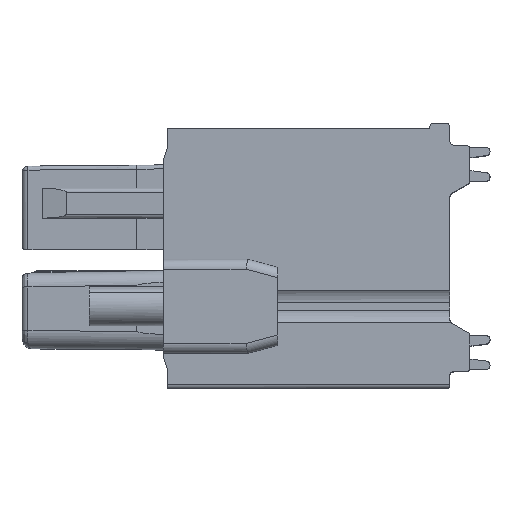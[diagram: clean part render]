
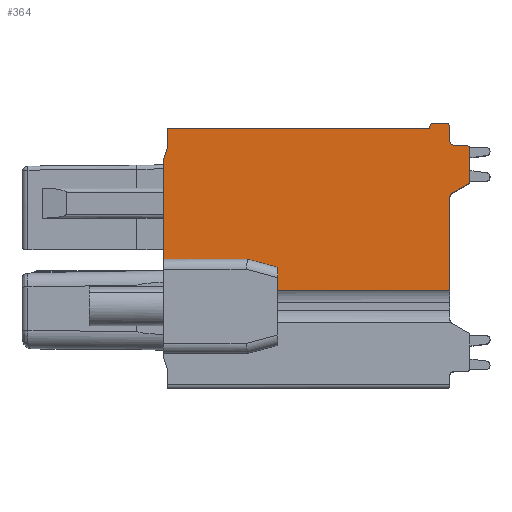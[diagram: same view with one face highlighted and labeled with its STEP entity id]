
A CAD part, top view. The second image highlights one B-rep face of the part: STEP entity #364.
In plain terms, the highlighted planar face has unit normal (0, 0, 1).
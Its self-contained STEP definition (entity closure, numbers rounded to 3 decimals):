
#364=ADVANCED_FACE('',(#3954),#3953,.F.);
#3953=PLANE('',#10093);
#3954=FACE_OUTER_BOUND('',#10094,.T.);
#10090=CARTESIAN_POINT('',(18.342,60.223,-4.975));
#10091=DIRECTION('',(0.,0.,-1.));
#10092=DIRECTION('',(1.,0.,0.));
#10093=AXIS2_PLACEMENT_3D('',#10090,#10091,#10092);
#10094=EDGE_LOOP('',(#14377,#14378,#14379,#14380,#14381,#14382,#14383,#14384,#14385,#14386,#14387,#14388,#14389,#14390,#14391,#14392,#14393,#14394,#14395,#14396,#14397,#14398));
#14377=ORIENTED_EDGE('',*,*,#17220,.T.);
#14378=ORIENTED_EDGE('',*,*,#17390,.T.);
#14379=ORIENTED_EDGE('',*,*,#17391,.F.);
#14380=ORIENTED_EDGE('',*,*,#17392,.T.);
#14381=ORIENTED_EDGE('',*,*,#17374,.F.);
#14382=ORIENTED_EDGE('',*,*,#17370,.F.);
#14383=ORIENTED_EDGE('',*,*,#17393,.F.);
#14384=ORIENTED_EDGE('',*,*,#17394,.F.);
#14385=ORIENTED_EDGE('',*,*,#17395,.F.);
#14386=ORIENTED_EDGE('',*,*,#17396,.T.);
#14387=ORIENTED_EDGE('',*,*,#17397,.T.);
#14388=ORIENTED_EDGE('',*,*,#17398,.T.);
#14389=ORIENTED_EDGE('',*,*,#17399,.F.);
#14390=ORIENTED_EDGE('',*,*,#17400,.T.);
#14391=ORIENTED_EDGE('',*,*,#17309,.T.);
#14392=ORIENTED_EDGE('',*,*,#17401,.F.);
#14393=ORIENTED_EDGE('',*,*,#17402,.F.);
#14394=ORIENTED_EDGE('',*,*,#17268,.T.);
#14395=ORIENTED_EDGE('',*,*,#17291,.T.);
#14396=ORIENTED_EDGE('',*,*,#17287,.T.);
#14397=ORIENTED_EDGE('',*,*,#17284,.T.);
#14398=ORIENTED_EDGE('',*,*,#17403,.F.);
#17220=EDGE_CURVE('',#24002,#23995,#24003,.T.);
#17268=EDGE_CURVE('',#24322,#24315,#24323,.T.);
#17284=EDGE_CURVE('',#24428,#24421,#24429,.T.);
#17287=EDGE_CURVE('',#24447,#24428,#24448,.T.);
#17291=EDGE_CURVE('',#24315,#24447,#24472,.T.);
#17309=EDGE_CURVE('',#24593,#24586,#24594,.T.);
#17370=EDGE_CURVE('',#24990,#24991,#24992,.T.);
#17374=EDGE_CURVE('',#24991,#25018,#25019,.T.);
#17390=EDGE_CURVE('',#23995,#25126,#25127,.T.);
#17391=EDGE_CURVE('',#25133,#25126,#25134,.T.);
#17392=EDGE_CURVE('',#25133,#25018,#25140,.T.);
#17393=EDGE_CURVE('',#25146,#24990,#25147,.T.);
#17394=EDGE_CURVE('',#25153,#25146,#25154,.T.);
#17395=EDGE_CURVE('',#25160,#25153,#25161,.T.);
#17396=EDGE_CURVE('',#25160,#25167,#25168,.T.);
#17397=EDGE_CURVE('',#25167,#25174,#25175,.T.);
#17398=EDGE_CURVE('',#25174,#25181,#25182,.T.);
#17399=EDGE_CURVE('',#25188,#25181,#25189,.T.);
#17400=EDGE_CURVE('',#25188,#24593,#25195,.T.);
#17401=EDGE_CURVE('',#25201,#24586,#25202,.T.);
#17402=EDGE_CURVE('',#24322,#25201,#25208,.T.);
#17403=EDGE_CURVE('',#24002,#24421,#25214,.T.);
#23995=VERTEX_POINT('',#34088);
#24002=VERTEX_POINT('',#34093);
#24003=LINE('',#34094,#34095);
#24315=VERTEX_POINT('',#34294);
#24322=VERTEX_POINT('',#34298);
#24323=LINE('',#34299,#34300);
#24421=VERTEX_POINT('',#34355);
#24428=VERTEX_POINT('',#34359);
#24429=LINE('',#34360,#34361);
#24447=VERTEX_POINT('',#34369);
#24448=LINE('',#34370,#34371);
#24472=LINE('',#34382,#34383);
#24586=VERTEX_POINT('',#34451);
#24593=VERTEX_POINT('',#34455);
#24594=LINE('',#34456,#34457);
#24990=VERTEX_POINT('',#34683);
#24991=VERTEX_POINT('',#34684);
#24992=LINE('',#34685,#34686);
#25018=VERTEX_POINT('',#34699);
#25019=CIRCLE('',#34703,0.2);
#25126=VERTEX_POINT('',#34765);
#25127=LINE('',#34766,#34767);
#25133=VERTEX_POINT('',#34769);
#25134=CIRCLE('',#34773,0.2);
#25140=LINE('',#34774,#34775);
#25146=VERTEX_POINT('',#34777);
#25147=CIRCLE('',#34781,0.2);
#25153=VERTEX_POINT('',#34782);
#25154=LINE('',#34783,#34784);
#25160=VERTEX_POINT('',#34786);
#25161=CIRCLE('',#34790,0.2);
#25167=VERTEX_POINT('',#34791);
#25168=LINE('',#34792,#34793);
#25174=VERTEX_POINT('',#34795);
#25175=CIRCLE('',#34799,0.2);
#25181=VERTEX_POINT('',#34800);
#25182=LINE('',#34801,#34802);
#25188=VERTEX_POINT('',#34804);
#25189=CIRCLE('',#34808,0.2);
#25195=LINE('',#34809,#34810);
#25201=VERTEX_POINT('',#34812);
#25202=LINE('',#34813,#34814);
#25208=LINE('',#34816,#34817);
#25214=LINE('',#34819,#34820);
#34088=CARTESIAN_POINT('',(34.172,51.023,-4.975));
#34093=CARTESIAN_POINT('',(25.412,51.023,-4.975));
#34094=CARTESIAN_POINT('',(25.412,51.023,-4.975));
#34095=VECTOR('',#34096,8.76);
#34096=DIRECTION('',(1.,0.,0.));
#34294=CARTESIAN_POINT('',(19.872,52.587,-4.975));
#34298=CARTESIAN_POINT('',(19.872,57.587,-4.975));
#34299=CARTESIAN_POINT('',(19.872,57.587,-4.975));
#34300=VECTOR('',#34301,5.001);
#34301=DIRECTION('',(0.,-1.,0.));
#34355=CARTESIAN_POINT('',(25.572,51.25,-4.975));
#34359=CARTESIAN_POINT('',(25.572,52.185,-4.975));
#34360=CARTESIAN_POINT('',(25.572,52.185,-4.975));
#34361=VECTOR('',#34362,0.935);
#34362=DIRECTION('',(0.,-1.,0.));
#34369=CARTESIAN_POINT('',(24.072,52.587,-4.975));
#34370=CARTESIAN_POINT('',(24.072,52.587,-4.975));
#34371=VECTOR('',#34372,1.553);
#34372=DIRECTION('',(0.966,-0.259,0.));
#34382=CARTESIAN_POINT('',(19.872,52.587,-4.975));
#34383=VECTOR('',#34384,4.2);
#34384=DIRECTION('',(1.,0.,0.));
#34451=CARTESIAN_POINT('',(20.072,59.137,-4.975));
#34455=CARTESIAN_POINT('',(33.172,59.137,-4.975));
#34456=CARTESIAN_POINT('',(33.172,59.137,-4.975));
#34457=VECTOR('',#34458,13.1);
#34458=DIRECTION('',(-1.,0.,0.));
#34683=CARTESIAN_POINT('',(35.172,58.087,-4.975));
#34684=CARTESIAN_POINT('',(35.172,56.502,-4.975));
#34685=CARTESIAN_POINT('',(35.172,58.087,-4.975));
#34686=VECTOR('',#34687,1.585);
#34687=DIRECTION('',(0.,-1.,0.));
#34699=CARTESIAN_POINT('',(35.072,56.329,-4.975));
#34700=CARTESIAN_POINT('',(34.972,56.502,-4.975));
#34701=DIRECTION('',(0.,0.,-1.));
#34702=DIRECTION('',(-1.,0.,0.));
#34703=AXIS2_PLACEMENT_3D('',#34700,#34701,#34702);
#34765=CARTESIAN_POINT('',(34.172,55.694,-4.975));
#34766=CARTESIAN_POINT('',(34.172,51.023,-4.975));
#34767=VECTOR('',#34768,4.671);
#34768=DIRECTION('',(0.,1.,0.));
#34769=CARTESIAN_POINT('',(34.272,55.867,-4.975));
#34770=CARTESIAN_POINT('',(34.372,55.694,-4.975));
#34771=DIRECTION('',(0.,0.,1.));
#34772=DIRECTION('',(0.5,-0.866,0.));
#34773=AXIS2_PLACEMENT_3D('',#34770,#34771,#34772);
#34774=CARTESIAN_POINT('',(34.272,55.867,-4.975));
#34775=VECTOR('',#34776,0.924);
#34776=DIRECTION('',(0.866,0.5,0.));
#34777=CARTESIAN_POINT('',(34.972,58.287,-4.975));
#34778=CARTESIAN_POINT('',(34.972,58.087,-4.975));
#34779=DIRECTION('',(0.,0.,-1.));
#34780=DIRECTION('',(0.,-1.,0.));
#34781=AXIS2_PLACEMENT_3D('',#34778,#34779,#34780);
#34782=CARTESIAN_POINT('',(34.372,58.287,-4.975));
#34783=CARTESIAN_POINT('',(34.372,58.287,-4.975));
#34784=VECTOR('',#34785,0.6);
#34785=DIRECTION('',(1.,0.,0.));
#34786=CARTESIAN_POINT('',(34.172,58.487,-4.975));
#34787=CARTESIAN_POINT('',(34.372,58.487,-4.975));
#34788=DIRECTION('',(0.,0.,1.));
#34789=DIRECTION('',(1.,0.,0.));
#34790=AXIS2_PLACEMENT_3D('',#34787,#34788,#34789);
#34791=CARTESIAN_POINT('',(34.172,59.187,-4.975));
#34792=CARTESIAN_POINT('',(34.172,58.487,-4.975));
#34793=VECTOR('',#34794,0.7);
#34794=DIRECTION('',(0.,1.,0.));
#34795=CARTESIAN_POINT('',(33.972,59.387,-4.975));
#34796=CARTESIAN_POINT('',(33.972,59.187,-4.975));
#34797=DIRECTION('',(0.,0.,1.));
#34798=DIRECTION('',(-1.,0.,0.));
#34799=AXIS2_PLACEMENT_3D('',#34796,#34797,#34798);
#34800=CARTESIAN_POINT('',(33.372,59.387,-4.975));
#34801=CARTESIAN_POINT('',(33.972,59.387,-4.975));
#34802=VECTOR('',#34803,0.6);
#34803=DIRECTION('',(-1.,0.,0.));
#34804=CARTESIAN_POINT('',(33.172,59.187,-4.975));
#34805=CARTESIAN_POINT('',(33.372,59.187,-4.975));
#34806=DIRECTION('',(0.,0.,-1.));
#34807=DIRECTION('',(1.,0.,0.));
#34808=AXIS2_PLACEMENT_3D('',#34805,#34806,#34807);
#34809=CARTESIAN_POINT('',(33.172,59.187,-4.975));
#34810=VECTOR('',#34811,0.05);
#34811=DIRECTION('',(0.,-1.,0.));
#34812=CARTESIAN_POINT('',(20.072,58.137,-4.975));
#34813=CARTESIAN_POINT('',(20.072,58.137,-4.975));
#34814=VECTOR('',#34815,1.);
#34815=DIRECTION('',(0.,1.,0.));
#34816=CARTESIAN_POINT('',(19.872,57.587,-4.975));
#34817=VECTOR('',#34818,0.585);
#34818=DIRECTION('',(0.342,0.94,0.));
#34819=CARTESIAN_POINT('',(25.412,51.023,-4.975));
#34820=VECTOR('',#34821,0.277);
#34821=DIRECTION('',(0.577,0.816,0.));
